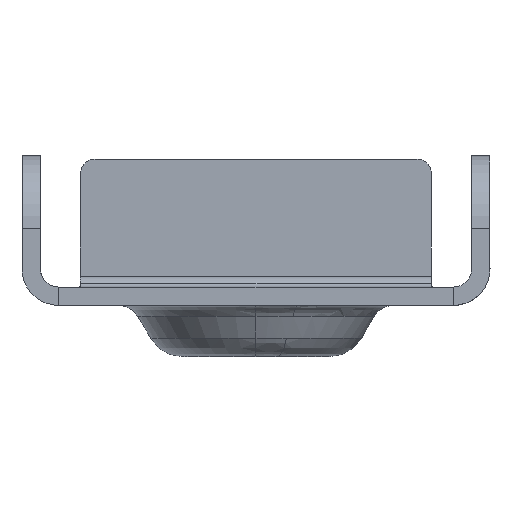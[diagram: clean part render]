
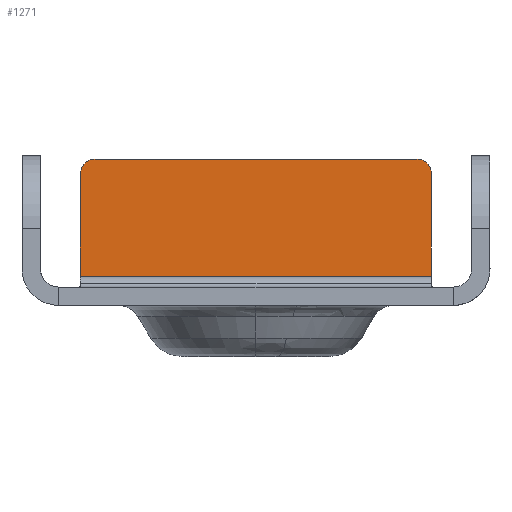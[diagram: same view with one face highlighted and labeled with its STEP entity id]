
A CAD part, left-side view. The second image highlights one B-rep face of the part: STEP entity #1271.
In plain terms, the highlighted planar face has unit normal (-1, 0, 0).
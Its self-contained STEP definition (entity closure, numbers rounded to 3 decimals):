
#887=AXIS2_PLACEMENT_3D('Circle Axis2P3D',#885,#886,$) ;
#1157=AXIS2_PLACEMENT_3D('Circle Axis2P3D',#1155,#1156,$) ;
#1261=AXIS2_PLACEMENT_3D('Plane Axis2P3D',#1258,#1259,#1260) ;
#811=CARTESIAN_POINT('Vertex',(1552.999,576.001,31.001)) ;
#816=CARTESIAN_POINT('Line Origine',(1552.999,600.001,31.001)) ;
#820=CARTESIAN_POINT('Vertex',(1552.999,624.001,31.001)) ;
#847=CARTESIAN_POINT('Line Origine',(1552.999,600.001,47.001)) ;
#851=CARTESIAN_POINT('Vertex',(1552.999,622.001,47.001)) ;
#853=CARTESIAN_POINT('Vertex',(1552.999,578.001,47.001)) ;
#882=CARTESIAN_POINT('Vertex',(1552.999,624.001,45.001)) ;
#885=CARTESIAN_POINT('Axis2P3D Location',(1552.999,622.001,45.001)) ;
#902=CARTESIAN_POINT('Line Origine',(1552.999,576.001,38.001)) ;
#906=CARTESIAN_POINT('Vertex',(1552.999,576.001,45.001)) ;
#979=CARTESIAN_POINT('Line Origine',(1552.999,624.001,38.001)) ;
#1155=CARTESIAN_POINT('Axis2P3D Location',(1552.999,578.001,45.001)) ;
#1258=CARTESIAN_POINT('Axis2P3D Location',(1552.999,624.001,27.001)) ;
#817=DIRECTION('Vector Direction',(0.,-1.,0.)) ;
#848=DIRECTION('Vector Direction',(0.,-1.,0.)) ;
#886=DIRECTION('Axis2P3D Direction',(-1.,0.,0.)) ;
#903=DIRECTION('Vector Direction',(0.,0.,-1.)) ;
#980=DIRECTION('Vector Direction',(0.,0.,-1.)) ;
#1156=DIRECTION('Axis2P3D Direction',(-1.,0.,0.)) ;
#1259=DIRECTION('Axis2P3D Direction',(-1.,0.,0.)) ;
#1260=DIRECTION('Axis2P3D XDirection',(0.,-1.,0.)) ;
#818=VECTOR('Line Direction',#817,1.) ;
#849=VECTOR('Line Direction',#848,1.) ;
#904=VECTOR('Line Direction',#903,1.) ;
#981=VECTOR('Line Direction',#980,1.) ;
#1264=ORIENTED_EDGE('',*,*,#983,.T.) ;
#1265=ORIENTED_EDGE('',*,*,#822,.T.) ;
#1266=ORIENTED_EDGE('',*,*,#908,.F.) ;
#1267=ORIENTED_EDGE('',*,*,#1159,.F.) ;
#1268=ORIENTED_EDGE('',*,*,#855,.F.) ;
#1269=ORIENTED_EDGE('',*,*,#889,.F.) ;
#1271=ADVANCED_FACE('interfacebia.1\\Brep With Voids',(#1270),#1262,.T.) ;
#888=CIRCLE('generated circle',#887,2.) ;
#1158=CIRCLE('generated circle',#1157,2.) ;
#822=EDGE_CURVE('',#821,#812,#819,.T.) ;
#855=EDGE_CURVE('',#852,#854,#850,.T.) ;
#889=EDGE_CURVE('',#883,#852,#888,.F.) ;
#908=EDGE_CURVE('',#907,#812,#905,.T.) ;
#983=EDGE_CURVE('',#883,#821,#982,.T.) ;
#1159=EDGE_CURVE('',#854,#907,#1158,.F.) ;
#1263=EDGE_LOOP('',(#1264,#1265,#1266,#1267,#1268,#1269)) ;
#1270=FACE_OUTER_BOUND('',#1263,.T.) ;
#819=LINE('Line',#816,#818) ;
#850=LINE('Line',#847,#849) ;
#905=LINE('Line',#902,#904) ;
#982=LINE('Line',#979,#981) ;
#1262=PLANE('Plane',#1261) ;
#812=VERTEX_POINT('',#811) ;
#821=VERTEX_POINT('',#820) ;
#852=VERTEX_POINT('',#851) ;
#854=VERTEX_POINT('',#853) ;
#883=VERTEX_POINT('',#882) ;
#907=VERTEX_POINT('',#906) ;
